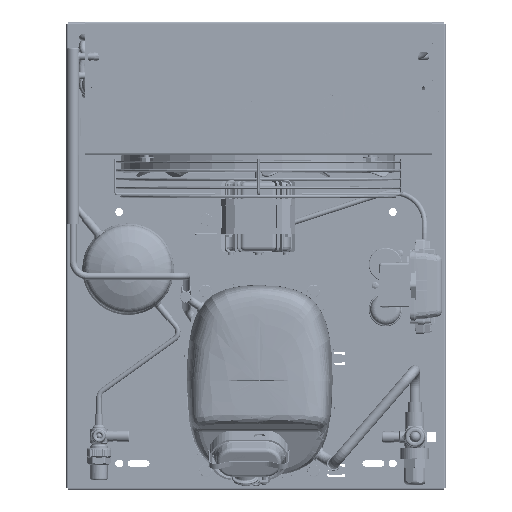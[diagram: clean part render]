
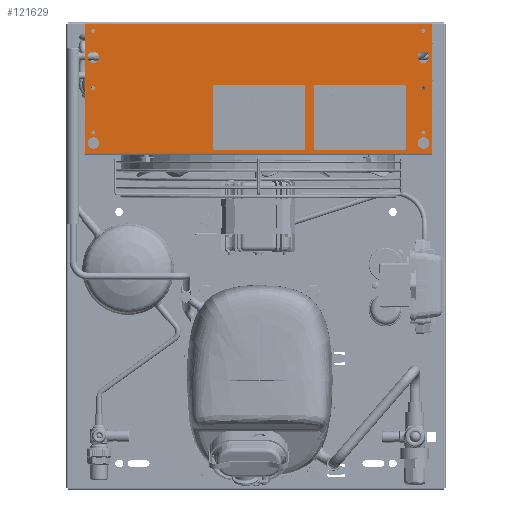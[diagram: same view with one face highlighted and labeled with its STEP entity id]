
A CAD part, top view. The second image highlights one B-rep face of the part: STEP entity #121629.
In plain terms, the highlighted planar face has unit normal (0, 0, 1).
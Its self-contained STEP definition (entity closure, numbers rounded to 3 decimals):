
#5439=CIRCLE('',#169063,6.5);
#5441=CIRCLE('',#169066,6.5);
#5443=CIRCLE('',#169069,6.5);
#5445=CIRCLE('',#169072,6.5);
#5471=CIRCLE('',#169117,2.25);
#5473=CIRCLE('',#169120,2.25);
#5475=CIRCLE('',#169123,2.25);
#5477=CIRCLE('',#169126,2.25);
#5479=CIRCLE('',#169129,2.25);
#5481=CIRCLE('',#169132,2.25);
#12769=ORIENTED_EDGE('',*,*,#45170,.T.);
#12770=ORIENTED_EDGE('',*,*,#45169,.F.);
#12771=ORIENTED_EDGE('',*,*,#45171,.F.);
#12772=ORIENTED_EDGE('',*,*,#45172,.T.);
#12773=ORIENTED_EDGE('',*,*,#45111,.F.);
#12774=ORIENTED_EDGE('',*,*,#45109,.F.);
#12775=ORIENTED_EDGE('',*,*,#45107,.F.);
#12776=ORIENTED_EDGE('',*,*,#45105,.F.);
#12777=ORIENTED_EDGE('',*,*,#45103,.F.);
#12778=ORIENTED_EDGE('',*,*,#45101,.F.);
#12779=ORIENTED_EDGE('',*,*,#45058,.F.);
#12780=ORIENTED_EDGE('',*,*,#45056,.F.);
#12781=ORIENTED_EDGE('',*,*,#45054,.F.);
#12782=ORIENTED_EDGE('',*,*,#45052,.F.);
#45052=EDGE_CURVE('',#62073,#62073,#5439,.T.);
#45054=EDGE_CURVE('',#62075,#62075,#5441,.T.);
#45056=EDGE_CURVE('',#62077,#62077,#5443,.T.);
#45058=EDGE_CURVE('',#62079,#62079,#5445,.T.);
#45101=EDGE_CURVE('',#62115,#62115,#5471,.T.);
#45103=EDGE_CURVE('',#62117,#62117,#5473,.T.);
#45105=EDGE_CURVE('',#62119,#62119,#5475,.T.);
#45107=EDGE_CURVE('',#62121,#62121,#5477,.T.);
#45109=EDGE_CURVE('',#62123,#62123,#5479,.T.);
#45111=EDGE_CURVE('',#62125,#62125,#5481,.T.);
#45169=EDGE_CURVE('',#62167,#62165,#73485,.T.);
#45170=EDGE_CURVE('',#62168,#62165,#73486,.T.);
#45171=EDGE_CURVE('',#62169,#62167,#73487,.T.);
#45172=EDGE_CURVE('',#62169,#62168,#73488,.T.);
#62073=VERTEX_POINT('',#214540);
#62075=VERTEX_POINT('',#214545);
#62077=VERTEX_POINT('',#214550);
#62079=VERTEX_POINT('',#214555);
#62115=VERTEX_POINT('',#214653);
#62117=VERTEX_POINT('',#214658);
#62119=VERTEX_POINT('',#214663);
#62121=VERTEX_POINT('',#214668);
#62123=VERTEX_POINT('',#214673);
#62125=VERTEX_POINT('',#214678);
#62165=VERTEX_POINT('',#214795);
#62167=VERTEX_POINT('',#214799);
#62168=VERTEX_POINT('',#214803);
#62169=VERTEX_POINT('',#214805);
#73485=LINE('',#214800,#84925);
#73486=LINE('',#214802,#84926);
#73487=LINE('',#214804,#84927);
#73488=LINE('',#214806,#84928);
#84925=VECTOR('',#182476,1000.);
#84926=VECTOR('',#182479,1000.);
#84927=VECTOR('',#182480,1000.);
#84928=VECTOR('',#182481,1000.);
#97716=EDGE_LOOP('',(#12769,#12770,#12771,#12772));
#97717=EDGE_LOOP('',(#12773));
#97718=EDGE_LOOP('',(#12774));
#97719=EDGE_LOOP('',(#12775));
#97720=EDGE_LOOP('',(#12776));
#97721=EDGE_LOOP('',(#12777));
#97722=EDGE_LOOP('',(#12778));
#97723=EDGE_LOOP('',(#12779));
#97724=EDGE_LOOP('',(#12780));
#97725=EDGE_LOOP('',(#12781));
#97726=EDGE_LOOP('',(#12782));
#107909=FACE_BOUND('',#97716,.T.);
#107910=FACE_BOUND('',#97717,.T.);
#107911=FACE_BOUND('',#97718,.T.);
#107912=FACE_BOUND('',#97719,.T.);
#107913=FACE_BOUND('',#97720,.T.);
#107914=FACE_BOUND('',#97721,.T.);
#107915=FACE_BOUND('',#97722,.T.);
#107916=FACE_BOUND('',#97723,.T.);
#107917=FACE_BOUND('',#97724,.T.);
#107918=FACE_BOUND('',#97725,.T.);
#107919=FACE_BOUND('',#97726,.T.);
#116415=PLANE('',#169163);
#121629=ADVANCED_FACE('',(#107909,#107910,#107911,#107912,#107913,#107914,
#107915,#107916,#107917,#107918,#107919),#116415,.F.);
#169063=AXIS2_PLACEMENT_3D('',#214539,#182210,#182211);
#169066=AXIS2_PLACEMENT_3D('',#214544,#182216,#182217);
#169069=AXIS2_PLACEMENT_3D('',#214549,#182222,#182223);
#169072=AXIS2_PLACEMENT_3D('',#214554,#182228,#182229);
#169117=AXIS2_PLACEMENT_3D('',#214652,#182335,#182336);
#169120=AXIS2_PLACEMENT_3D('',#214657,#182341,#182342);
#169123=AXIS2_PLACEMENT_3D('',#214662,#182347,#182348);
#169126=AXIS2_PLACEMENT_3D('',#214667,#182353,#182354);
#169129=AXIS2_PLACEMENT_3D('',#214672,#182359,#182360);
#169132=AXIS2_PLACEMENT_3D('',#214677,#182365,#182366);
#169163=AXIS2_PLACEMENT_3D('',#214801,#182477,#182478);
#182210=DIRECTION('',(0.,0.,1.));
#182211=DIRECTION('',(-1.,0.,0.));
#182216=DIRECTION('',(0.,0.,1.));
#182217=DIRECTION('',(-1.,0.,0.));
#182222=DIRECTION('',(0.,0.,1.));
#182223=DIRECTION('',(-1.,0.,0.));
#182228=DIRECTION('',(0.,0.,1.));
#182229=DIRECTION('',(-1.,0.,0.));
#182335=DIRECTION('',(0.,0.,1.));
#182336=DIRECTION('',(-1.,0.,0.));
#182341=DIRECTION('',(0.,0.,1.));
#182342=DIRECTION('',(-1.,0.,0.));
#182347=DIRECTION('',(0.,0.,1.));
#182348=DIRECTION('',(-1.,0.,0.));
#182353=DIRECTION('',(0.,0.,1.));
#182354=DIRECTION('',(-1.,0.,0.));
#182359=DIRECTION('',(0.,0.,1.));
#182360=DIRECTION('',(-1.,0.,0.));
#182365=DIRECTION('',(0.,0.,1.));
#182366=DIRECTION('',(-1.,0.,0.));
#182476=DIRECTION('',(1.,0.,0.));
#182477=DIRECTION('',(0.,0.,-1.));
#182478=DIRECTION('',(-1.,0.,0.));
#182479=DIRECTION('',(0.,1.,0.));
#182480=DIRECTION('',(0.,1.,0.));
#182481=DIRECTION('',(1.,0.,0.));
#214539=CARTESIAN_POINT('',(-187.,-35.1,0.));
#214540=CARTESIAN_POINT('',(-193.5,-35.1,0.));
#214544=CARTESIAN_POINT('',(187.,-35.1,0.));
#214545=CARTESIAN_POINT('',(180.5,-35.1,0.));
#214549=CARTESIAN_POINT('',(187.,62.1,0.));
#214550=CARTESIAN_POINT('',(180.5,62.1,0.));
#214554=CARTESIAN_POINT('',(-187.,62.1,0.));
#214555=CARTESIAN_POINT('',(-193.5,62.1,0.));
#214652=CARTESIAN_POINT('',(-187.,-65.1,0.));
#214653=CARTESIAN_POINT('',(-189.25,-65.1,0.));
#214657=CARTESIAN_POINT('',(187.,-65.1,0.));
#214658=CARTESIAN_POINT('',(184.75,-65.1,0.));
#214662=CARTESIAN_POINT('',(187.,-0.1,0.));
#214663=CARTESIAN_POINT('',(184.75,-0.1,0.));
#214667=CARTESIAN_POINT('',(-187.,-0.1,0.));
#214668=CARTESIAN_POINT('',(-189.25,-0.1,0.));
#214672=CARTESIAN_POINT('',(-187.,49.9,0.));
#214673=CARTESIAN_POINT('',(-189.25,49.9,0.));
#214677=CARTESIAN_POINT('',(187.,49.9,0.));
#214678=CARTESIAN_POINT('',(184.75,49.9,0.));
#214795=CARTESIAN_POINT('',(197.,73.1,0.));
#214799=CARTESIAN_POINT('',(-197.,73.1,0.));
#214800=CARTESIAN_POINT('',(-197.,73.1,0.));
#214801=CARTESIAN_POINT('',(-197.,-75.1,0.));
#214802=CARTESIAN_POINT('',(197.,-75.1,0.));
#214803=CARTESIAN_POINT('',(197.,-73.1,0.));
#214804=CARTESIAN_POINT('',(-197.,-75.1,0.));
#214805=CARTESIAN_POINT('',(-197.,-73.1,0.));
#214806=CARTESIAN_POINT('',(-197.,-73.1,0.));
